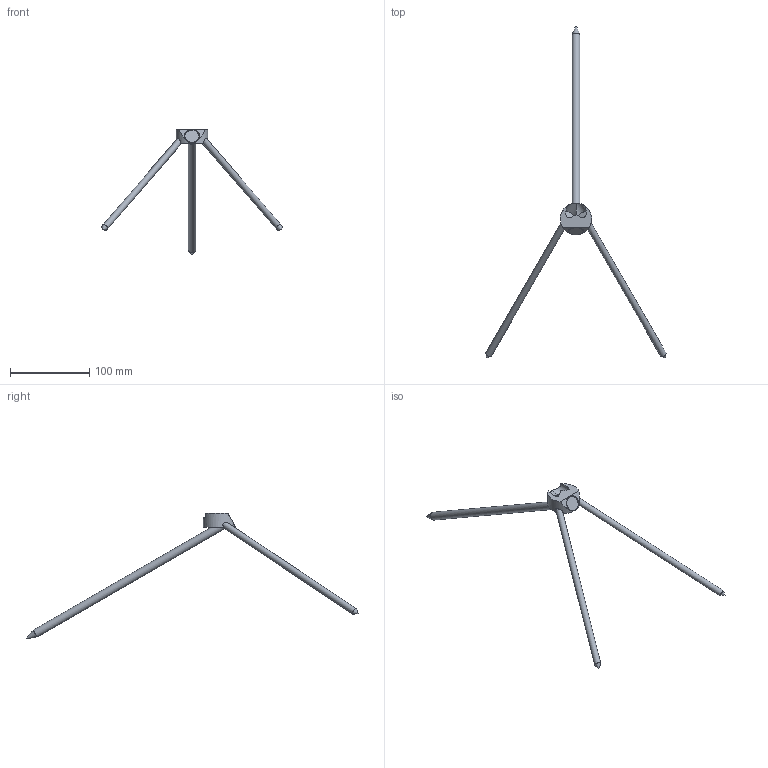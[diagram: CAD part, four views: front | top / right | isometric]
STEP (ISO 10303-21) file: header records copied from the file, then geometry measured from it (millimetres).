
FILE_DESCRIPTION(/* description */ ('Unknown'),/* implementation_level */ '2;1');
FILE_NAME(/* name */ 'T-JOINT D40_W30_2xSK 8x240_1xSK 10x 300',/* time_stamp */ '2022-02-04T10:12:49+01:00',/* author */ ('Unknown'),/* organization */ ('Unknown'),/* preprocessor_version */ 'ST-DEVELOPER v16.7',/* originating_system */ 'Solid Edge',/* authorisation */ 'Unknown');
FILE_SCHEMA (('AUTOMOTIVE_DESIGN {1 0 10303 214 3 1 1}'));
Length unit declared in the file: millimetre
Products named in the file (4): T_JOINT_D40_W30_2x SK8x240_1xSK10x300; T-Joint_D40_W30; SK Knapp Schraube 8x240_ohne_Gewinde_22042020; SK Schraube 10x300_ohne_Gewinde_22042020
Assembly tree (4 placements, depth 2):
  T_JOINT_D40_W30_2x SK8x240_1xSK10x300
    T-Joint_D40_W30
    SK Knapp Schraube 8x240_ohne_Gewinde_22042020  x2
    SK Schraube 10x300_ohne_Gewinde_22042020
Bounding box: 228.25 x 419.99 x 159.35 mm (x, y, z)
Volume: 59060.2 mm3; surface area: 28268.8 mm2
Topology: 4 solids, 4 shells, 41 faces, 90 edges, 54 vertices
Faces by surface type: cylinder 16, plane 11, cone 11, torus 3
Full cylindrical faces by diameter (mm): 6 x2, 6.3 x1, 8 x4, 8.5 x2, 10 x2, 12.5 x1, 15.5 x2, 18 x1, 39.8 x1
Entity records: 883 total; most frequent: CARTESIAN_POINT 166, DIRECTION 147, ORIENTED_EDGE 84, AXIS2_PLACEMENT_3D 73, FACE_BOUND 59, EDGE_LOOP 58, EDGE_CURVE 42, VERTEX_POINT 37
